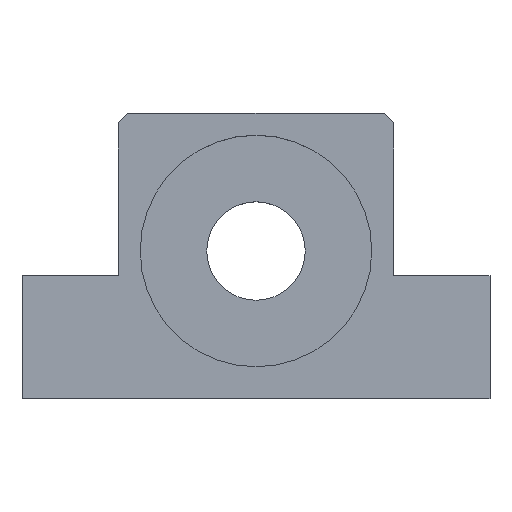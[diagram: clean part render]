
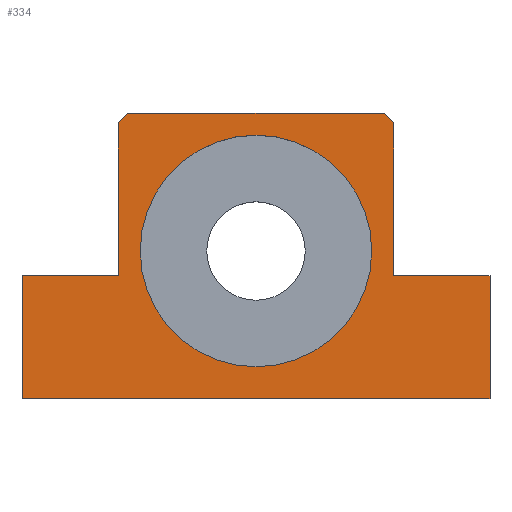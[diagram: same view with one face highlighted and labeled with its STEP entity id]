
A CAD part, top view. The second image highlights one B-rep face of the part: STEP entity #334.
In plain terms, the highlighted planar face has unit normal (0, 0, 1).
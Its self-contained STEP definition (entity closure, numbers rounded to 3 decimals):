
#36=FACE_BOUND($,#91,.T.);
#42=CIRCLE($,#351,23.5);
#59=FACE_OUTER_BOUND($,#90,.T.);
#90=EDGE_LOOP($,(#291,#292,#293,#294,#295,#296,#297,#298,#299,#300));
#91=EDGE_LOOP($,(#301));
#92=LINE($,#461,#122);
#98=LINE($,#472,#128);
#107=LINE($,#493,#137);
#110=LINE($,#524,#140);
#112=LINE($,#528,#142);
#114=LINE($,#531,#144);
#115=LINE($,#534,#145);
#117=LINE($,#538,#147);
#119=LINE($,#542,#149);
#121=LINE($,#545,#151);
#122=VECTOR($,#371,2.828);
#128=VECTOR($,#379,52.);
#137=VECTOR($,#394,2.828);
#140=VECTOR($,#431,25.);
#142=VECTOR($,#435,19.5);
#144=VECTOR($,#439,31.);
#145=VECTOR($,#442,31.);
#147=VECTOR($,#446,19.5);
#149=VECTOR($,#450,25.);
#151=VECTOR($,#454,95.);
#152=VERTEX_POINT($,#459);
#153=VERTEX_POINT($,#460);
#157=VERTEX_POINT($,#470);
#166=VERTEX_POINT($,#492);
#171=VERTEX_POINT($,#507);
#176=VERTEX_POINT($,#521);
#177=VERTEX_POINT($,#523);
#178=VERTEX_POINT($,#527);
#179=VERTEX_POINT($,#533);
#180=VERTEX_POINT($,#537);
#181=VERTEX_POINT($,#541);
#182=EDGE_CURVE($,#152,#153,#92,.T.);
#188=EDGE_CURVE($,#152,#157,#98,.T.);
#198=EDGE_CURVE($,#166,#157,#107,.T.);
#204=EDGE_CURVE($,#171,#171,#42,.T.);
#210=EDGE_CURVE($,#177,#176,#110,.T.);
#212=EDGE_CURVE($,#178,#177,#112,.T.);
#214=EDGE_CURVE($,#166,#178,#114,.T.);
#215=EDGE_CURVE($,#179,#153,#115,.T.);
#217=EDGE_CURVE($,#180,#179,#117,.T.);
#219=EDGE_CURVE($,#181,#180,#119,.T.);
#221=EDGE_CURVE($,#176,#181,#121,.T.);
#291=ORIENTED_EDGE($,*,*,#182,.F.);
#292=ORIENTED_EDGE($,*,*,#188,.T.);
#293=ORIENTED_EDGE($,*,*,#198,.F.);
#294=ORIENTED_EDGE($,*,*,#214,.T.);
#295=ORIENTED_EDGE($,*,*,#212,.T.);
#296=ORIENTED_EDGE($,*,*,#210,.T.);
#297=ORIENTED_EDGE($,*,*,#221,.T.);
#298=ORIENTED_EDGE($,*,*,#219,.T.);
#299=ORIENTED_EDGE($,*,*,#217,.T.);
#300=ORIENTED_EDGE($,*,*,#215,.T.);
#301=ORIENTED_EDGE($,*,*,#204,.T.);
#315=PLANE($,#366);
#334=ADVANCED_FACE($,(#59,#36),#315,.T.);
#351=AXIS2_PLACEMENT_3D($,#508,#412,#413);
#366=AXIS2_PLACEMENT_3D($,#546,#455,#456);
#371=DIRECTION($,(0.707,-0.707,0.));
#379=DIRECTION($,(-1.,0.,0.));
#394=DIRECTION($,(0.707,0.707,0.));
#412=DIRECTION('center_axis',(0.,0.,-1.));
#413=DIRECTION('ref_axis',(-1.,0.,0.));
#431=DIRECTION($,(0.,-1.,0.));
#435=DIRECTION($,(-1.,0.,0.));
#439=DIRECTION($,(0.,-1.,0.));
#442=DIRECTION($,(0.,1.,0.));
#446=DIRECTION($,(-1.,0.,0.));
#450=DIRECTION($,(0.,1.,0.));
#454=DIRECTION($,(1.,0.,0.));
#455=DIRECTION('center_axis',(0.,0.,1.));
#456=DIRECTION('ref_axis',(1.,0.,0.));
#459=CARTESIAN_POINT('',(73.5,58.,26.));
#460=CARTESIAN_POINT('',(75.5,56.,26.));
#461=CARTESIAN_POINT($,(75.801,55.699,26.));
#470=CARTESIAN_POINT('',(21.5,58.,26.));
#472=CARTESIAN_POINT($,(75.5,58.,26.));
#492=CARTESIAN_POINT('',(19.5,56.,26.));
#493=CARTESIAN_POINT($,(19.199,55.699,26.));
#507=CARTESIAN_POINT('',(71.,30.,26.));
#508=CARTESIAN_POINT('Origin',(47.5,30.,26.));
#521=CARTESIAN_POINT('',(0.,0.,26.));
#523=CARTESIAN_POINT('',(0.,25.,26.));
#524=CARTESIAN_POINT($,(0.,25.,26.));
#527=CARTESIAN_POINT('',(19.5,25.,26.));
#528=CARTESIAN_POINT($,(19.5,25.,26.));
#531=CARTESIAN_POINT($,(19.5,58.,26.));
#533=CARTESIAN_POINT('',(75.5,25.,26.));
#534=CARTESIAN_POINT($,(75.5,25.,26.));
#537=CARTESIAN_POINT('',(95.,25.,26.));
#538=CARTESIAN_POINT($,(95.,25.,26.));
#541=CARTESIAN_POINT('',(95.,0.,26.));
#542=CARTESIAN_POINT($,(95.,0.,26.));
#545=CARTESIAN_POINT($,(0.,0.,26.));
#546=CARTESIAN_POINT('Origin',(47.5,24.794,26.));
